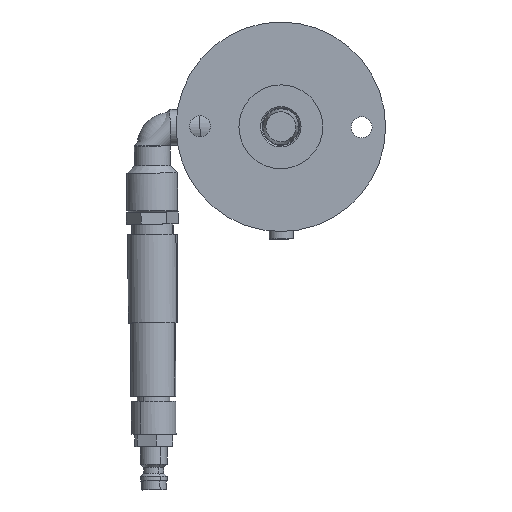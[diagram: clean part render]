
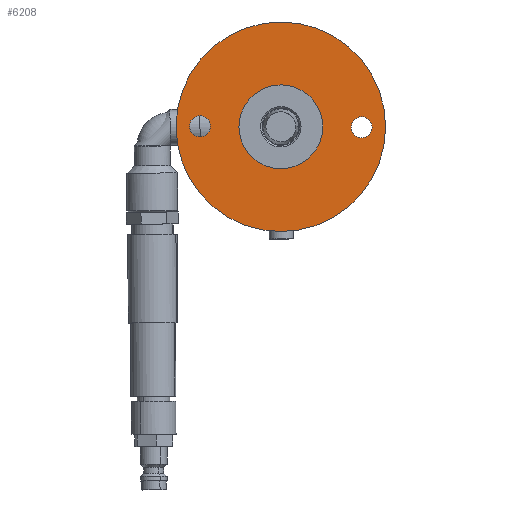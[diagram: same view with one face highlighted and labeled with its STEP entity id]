
A CAD part, front view. The second image highlights one B-rep face of the part: STEP entity #6208.
In plain terms, the highlighted planar face has unit normal (0, -1, 0) as drawn and (-1, 0, 0) by its records, which use the part's own axes.
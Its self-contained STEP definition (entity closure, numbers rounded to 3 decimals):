
#42 = EDGE_LOOP ( 'NONE', ( #3421, #1305 ) ) ;
#77 = CARTESIAN_POINT ( 'NONE',  ( 3., 27., 0. ) ) ;
#135 = CIRCLE ( 'NONE', #6034, 3.5 ) ;
#387 = CIRCLE ( 'NONE', #1115, 35. ) ;
#414 = EDGE_CURVE ( 'NONE', #3165, #4395, #1094, .T. ) ;
#487 = CARTESIAN_POINT ( 'NONE',  ( 3., 0., -35. ) ) ;
#516 = EDGE_CURVE ( 'NONE', #5159, #4009, #135, .T. ) ;
#643 = CIRCLE ( 'NONE', #7231, 14. ) ;
#716 = DIRECTION ( 'NONE',  ( 0., 0., -1. ) ) ;
#793 = DIRECTION ( 'NONE',  ( 1., 0., 0. ) ) ;
#1081 = CARTESIAN_POINT ( 'NONE',  ( 3., 0., 14. ) ) ;
#1094 = CIRCLE ( 'NONE', #7058, 3.5 ) ;
#1115 = AXIS2_PLACEMENT_3D ( 'NONE', #1876, #6258, #2523 ) ;
#1140 = AXIS2_PLACEMENT_3D ( 'NONE', #2090, #6456, #2723 ) ;
#1265 = ORIENTED_EDGE ( 'NONE', *, *, #5001, .F. ) ;
#1305 = ORIENTED_EDGE ( 'NONE', *, *, #5014, .T. ) ;
#1322 = FACE_BOUND ( 'NONE', #42, .T. ) ;
#1398 = CARTESIAN_POINT ( 'NONE',  ( 3., -27., 3.5 ) ) ;
#1405 = EDGE_CURVE ( 'NONE', #4149, #1776, #1725, .T. ) ;
#1518 = CIRCLE ( 'NONE', #2889, 35. ) ;
#1531 = DIRECTION ( 'NONE',  ( 1., 0., 0. ) ) ;
#1678 = ORIENTED_EDGE ( 'NONE', *, *, #4884, .T. ) ;
#1725 = CIRCLE ( 'NONE', #1140, 14. ) ;
#1776 = VERTEX_POINT ( 'NONE', #1959 ) ;
#1822 = CARTESIAN_POINT ( 'NONE',  ( 3., -27., 0. ) ) ;
#1843 = CARTESIAN_POINT ( 'NONE',  ( 3., 27., -3.5 ) ) ;
#1876 = CARTESIAN_POINT ( 'NONE',  ( 3., 0., 0. ) ) ;
#1959 = CARTESIAN_POINT ( 'NONE',  ( 3., 0., -14. ) ) ;
#2070 = CARTESIAN_POINT ( 'NONE',  ( 3., 0., 0. ) ) ;
#2090 = CARTESIAN_POINT ( 'NONE',  ( 3., 0., 0. ) ) ;
#2255 = ORIENTED_EDGE ( 'NONE', *, *, #4897, .T. ) ;
#2457 = DIRECTION ( 'NONE',  ( 0., 0., -1. ) ) ;
#2523 = DIRECTION ( 'NONE',  ( 0., 0., -1. ) ) ;
#2705 = DIRECTION ( 'NONE',  ( 0., 0., -1. ) ) ;
#2723 = DIRECTION ( 'NONE',  ( 0., 0., -1. ) ) ;
#2759 = ORIENTED_EDGE ( 'NONE', *, *, #1405, .T. ) ;
#2889 = AXIS2_PLACEMENT_3D ( 'NONE', #5289, #1531, #5915 ) ;
#2975 = FACE_OUTER_BOUND ( 'NONE', #5061, .T. ) ;
#3165 = VERTEX_POINT ( 'NONE', #6301 ) ;
#3421 = ORIENTED_EDGE ( 'NONE', *, *, #414, .T. ) ;
#3462 = DIRECTION ( 'NONE',  ( 1., 0., 0. ) ) ;
#3813 = ORIENTED_EDGE ( 'NONE', *, *, #7636, .F. ) ;
#3835 = PLANE ( 'NONE',  #4389 ) ;
#4009 = VERTEX_POINT ( 'NONE', #4285 ) ;
#4149 = VERTEX_POINT ( 'NONE', #1081 ) ;
#4168 = CIRCLE ( 'NONE', #6410, 3.5 ) ;
#4285 = CARTESIAN_POINT ( 'NONE',  ( 3., 27., 3.5 ) ) ;
#4389 = AXIS2_PLACEMENT_3D ( 'NONE', #4485, #7595, #5105 ) ;
#4395 = VERTEX_POINT ( 'NONE', #1398 ) ;
#4485 = CARTESIAN_POINT ( 'NONE',  ( 3., 0., 0. ) ) ;
#4499 = DIRECTION ( 'NONE',  ( 1., 0., 0. ) ) ;
#4576 = CARTESIAN_POINT ( 'NONE',  ( 3., 27., 0. ) ) ;
#4590 = AXIS2_PLACEMENT_3D ( 'NONE', #7201, #3462, #7832 ) ;
#4884 = EDGE_CURVE ( 'NONE', #4009, #5159, #4168, .T. ) ;
#4897 = EDGE_CURVE ( 'NONE', #1776, #4149, #643, .T. ) ;
#5001 = EDGE_CURVE ( 'NONE', #7455, #6054, #1518, .T. ) ;
#5014 = EDGE_CURVE ( 'NONE', #4395, #3165, #6938, .T. ) ;
#5061 = EDGE_LOOP ( 'NONE', ( #1265, #3813 ) ) ;
#5105 = DIRECTION ( 'NONE',  ( 0., 0., -1. ) ) ;
#5159 = VERTEX_POINT ( 'NONE', #1843 ) ;
#5197 = DIRECTION ( 'NONE',  ( 0., 0., -1. ) ) ;
#5289 = CARTESIAN_POINT ( 'NONE',  ( 3., 0., 0. ) ) ;
#5336 = EDGE_LOOP ( 'NONE', ( #2759, #2255 ) ) ;
#5515 = CARTESIAN_POINT ( 'NONE',  ( 3., 0., 35. ) ) ;
#5659 = EDGE_LOOP ( 'NONE', ( #6457, #1678 ) ) ;
#5915 = DIRECTION ( 'NONE',  ( 0., 0., -1. ) ) ;
#6034 = AXIS2_PLACEMENT_3D ( 'NONE', #77, #4499, #716 ) ;
#6054 = VERTEX_POINT ( 'NONE', #487 ) ;
#6202 = DIRECTION ( 'NONE',  ( 1., 0., 0. ) ) ;
#6208 = ADVANCED_FACE ( 'NONE', ( #1322, #7781, #6318, #2975 ), #3835, .F. ) ;
#6258 = DIRECTION ( 'NONE',  ( 1., 0., 0. ) ) ;
#6301 = CARTESIAN_POINT ( 'NONE',  ( 3., -27., -3.5 ) ) ;
#6318 = FACE_BOUND ( 'NONE', #5336, .T. ) ;
#6410 = AXIS2_PLACEMENT_3D ( 'NONE', #4576, #793, #5197 ) ;
#6439 = DIRECTION ( 'NONE',  ( 1., 0., 0. ) ) ;
#6456 = DIRECTION ( 'NONE',  ( 1., 0., 0. ) ) ;
#6457 = ORIENTED_EDGE ( 'NONE', *, *, #516, .T. ) ;
#6938 = CIRCLE ( 'NONE', #4590, 3.5 ) ;
#7058 = AXIS2_PLACEMENT_3D ( 'NONE', #1822, #6202, #2457 ) ;
#7201 = CARTESIAN_POINT ( 'NONE',  ( 3., -27., 0. ) ) ;
#7231 = AXIS2_PLACEMENT_3D ( 'NONE', #2070, #6439, #2705 ) ;
#7455 = VERTEX_POINT ( 'NONE', #5515 ) ;
#7595 = DIRECTION ( 'NONE',  ( 1., 0., 0. ) ) ;
#7636 = EDGE_CURVE ( 'NONE', #6054, #7455, #387, .T. ) ;
#7781 = FACE_BOUND ( 'NONE', #5659, .T. ) ;
#7832 = DIRECTION ( 'NONE',  ( 0., 0., -1. ) ) ;
